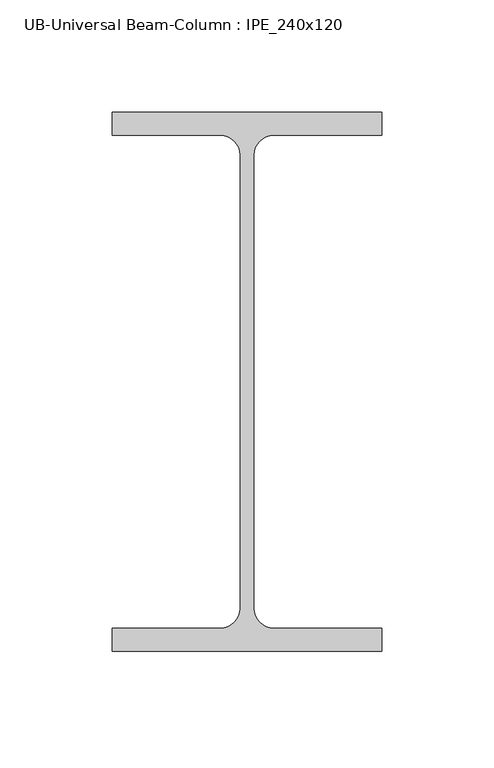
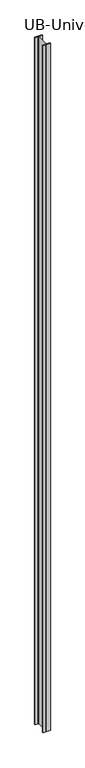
"""IFC4 building model written with IfcOpenShell, lengths in millimetres: column geometry, UB-Universal Beam-Column : IPE_240x120."""

from ifc_helpers import new_model, si_unit, point, frame, frame_2d, origin, place, context, project, spatial, polyline, circle_curve, trimmed, segment, composite_curve, outline, extrude, source, transform, mapped, element, save


def ub_universal_beam_column_ipe_240x120_65ac1af2(model_context):
    return source(origin(), model_context, "Body", "SweptSolid", [
        extrude(outline(composite_curve([segment(polyline([(60.0, 120.0), (60.0, 109.8), (11.9, 109.8)]), True, "CONTINUOUS"), segment(trimmed(circle_curve(frame_2d((11.9, 100.9)), 8.9), [point((11.9, 109.8))], [point((3.0, 100.9))], True, "CARTESIAN"), True, "CONTINUOUS"), segment(polyline([(3.0, 100.9), (3.0, -100.9)]), True, "CONTINUOUS"), segment(trimmed(circle_curve(frame_2d((11.9, -100.9)), 8.9), [point((3.0, -100.9))], [point((11.9, -109.8))], True, "CARTESIAN"), True, "CONTINUOUS"), segment(polyline([(11.9, -109.8), (60.0, -109.8), (60.0, -120.0), (-60.0, -120.0), (-60.0, -109.8), (-11.9, -109.8)]), True, "CONTINUOUS"), segment(trimmed(circle_curve(frame_2d((-11.9, -100.9)), 8.9), [point((-11.9, -109.8))], [point((-3.0, -100.9))], True, "CARTESIAN"), True, "CONTINUOUS"), segment(polyline([(-3.0, -100.9), (-3.0, 100.9)]), True, "CONTINUOUS"), segment(trimmed(circle_curve(frame_2d((-11.9, 100.9)), 8.9), [point((-3.0, 100.9))], [point((-11.9, 109.8))], True, "CARTESIAN"), True, "CONTINUOUS"), segment(polyline([(-11.9, 109.8), (-60.0, 109.8), (-60.0, 120.0), (60.0, 120.0)]), True, "CONTINUOUS")], self_intersect=False)), frame((0.0, 0.0, 25860.0), z_axis=(0.0, 0.0, 1.0), x_axis=(1.0, 0.0, 0.0)), (0.0, 0.0, 1.0), 12000.0),
    ])


if __name__ == "__main__":
    model = new_model("IFC4")
    model_context = context("Model", 3, world=origin())
    ifc_project = project(units=[si_unit("LENGTHUNIT", "METRE", prefix="MILLI")], contexts=[model_context])
    site = spatial("IfcSite", under=ifc_project)
    building = spatial("IfcBuilding", under=site)
    placement = place(None, origin())
    ub_universal_beam_column_ipe_240x120_shape = ub_universal_beam_column_ipe_240x120_65ac1af2(model_context)
    element("IfcColumn", 1, ObjectType="UB-Universal Beam-Column : IPE_240x120", at=placement, inside=building, context=model_context, shape_type="MappedRepresentation", body=[
        mapped(ub_universal_beam_column_ipe_240x120_shape, transform((0.0, 0.0, 0.0), x_axis=(1.0, 0.0, 0.0), y_axis=(0.0, 1.0, 0.0), z_axis=(0.0, 0.0, 1.0))),
    ])
    save(model, "model.ifc")
